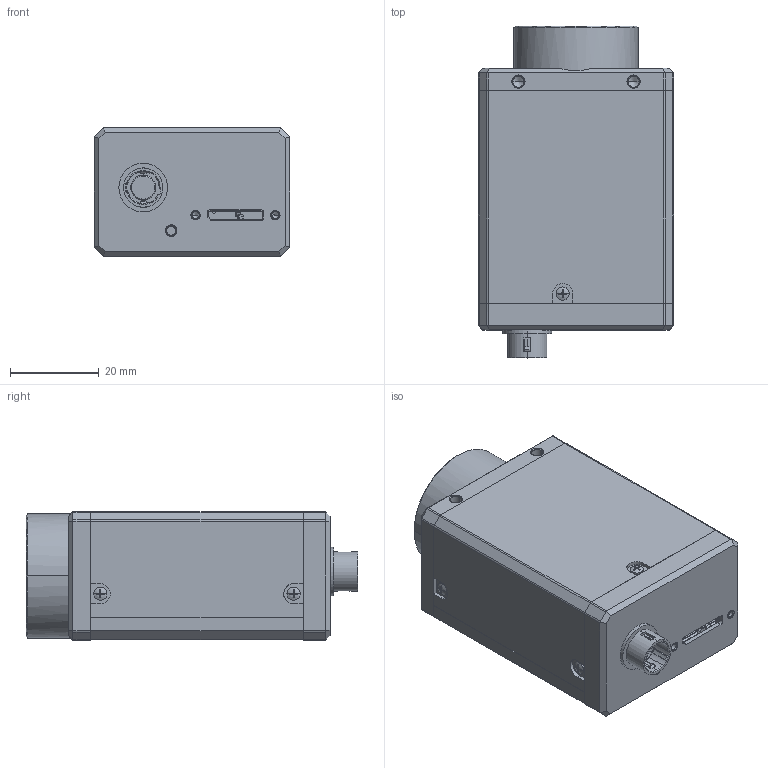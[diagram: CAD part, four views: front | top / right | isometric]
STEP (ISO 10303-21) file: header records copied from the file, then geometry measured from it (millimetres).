
FILE_DESCRIPTION((''),'2;1');
FILE_NAME('CH250-60U','2025-12-05T17:44:28',('pengxianzu'),(''),'CREO PARAMETRIC BY PTC INC, 2020044','CREO PARAMETRIC BY PTC INC, 2020044','');
FILE_SCHEMA(('CONFIG_CONTROL_DESIGN'));
Products named in the file (1): CH250-60U
Bounding box: 44 x 74.85 x 29 mm (x, y, z)
Volume: 29731.2 mm3; surface area: 42126.3 mm2
Topology: 3 solids, 79 shells, 3997 faces, 11105 edges, 7076 vertices
Faces by surface type: plane 2500, cylinder 1074, cone 290, torus 56, sphere 52, bspline 25
Entity records: 134327 total; most frequent: CARTESIAN_POINT 31791, ORIENTED_EDGE 21285, DIRECTION 20969, EDGE_CURVE 11033, VECTOR 7335, LINE 7335, VERTEX_POINT 7076, AXIS2_PLACEMENT_3D 6817
